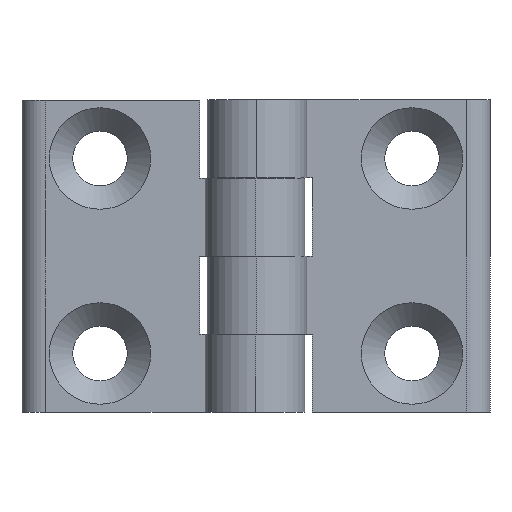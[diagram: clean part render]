
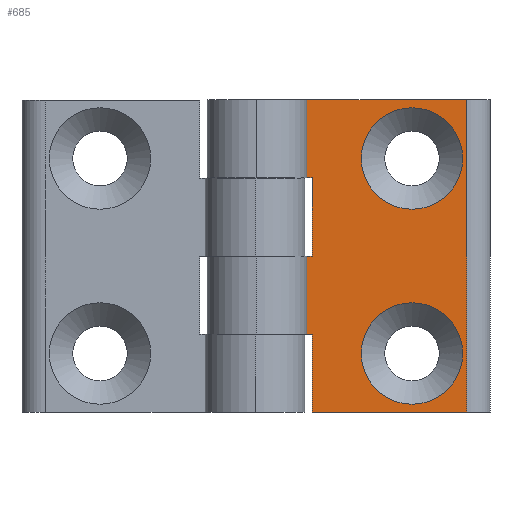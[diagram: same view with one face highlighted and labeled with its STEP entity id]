
A CAD part, front view. The second image highlights one B-rep face of the part: STEP entity #685.
In plain terms, the highlighted planar face has unit normal (0, -1, 0).
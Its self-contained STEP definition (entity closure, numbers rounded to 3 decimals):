
#90=CARTESIAN_POINT('',(12.291,-1.401,40.0));
#91=VERTEX_POINT('',#90);
#99=CARTESIAN_POINT('',(12.291,-1.401,0.0));
#100=VERTEX_POINT('',#99);
#101=CARTESIAN_POINT('',(12.291,-1.401,40.0));
#102=DIRECTION('',(0.0,0.0,-1.0));
#103=VECTOR('',#102,40.0);
#104=LINE('',#101,#103);
#105=EDGE_CURVE('',#91,#100,#104,.T.);
#156=CARTESIAN_POINT('',(-8.209,-1.401,40.0));
#157=VERTEX_POINT('',#156);
#165=CARTESIAN_POINT('',(12.291,-1.401,40.0));
#166=DIRECTION('',(-1.0,0.0,0.0));
#167=VECTOR('',#166,20.5);
#168=LINE('',#165,#167);
#169=EDGE_CURVE('',#91,#157,#168,.T.);
#235=CARTESIAN_POINT('',(11.791,-1.401,7.5));
#236=VERTEX_POINT('',#235);
#237=CARTESIAN_POINT('',(5.291,-1.401,7.5));
#238=DIRECTION('',(0.0,1.0,0.0));
#239=DIRECTION('',(1.0,0.0,0.0));
#240=AXIS2_PLACEMENT_3D('',#237,#238,#239);
#241=CIRCLE('',#240,6.5);
#242=EDGE_CURVE('',#236,#236,#241,.T.);
#325=CARTESIAN_POINT('',(11.791,-1.401,32.5));
#326=VERTEX_POINT('',#325);
#327=CARTESIAN_POINT('',(5.291,-1.401,32.5));
#328=DIRECTION('',(0.0,1.0,0.0));
#329=DIRECTION('',(1.0,0.0,0.0));
#330=AXIS2_PLACEMENT_3D('',#327,#328,#329);
#331=CIRCLE('',#330,6.5);
#332=EDGE_CURVE('',#326,#326,#331,.T.);
#394=CARTESIAN_POINT('',(-7.509,-1.401,30.0));
#395=VERTEX_POINT('',#394);
#396=CARTESIAN_POINT('',(-7.509,-1.401,20.));
#397=VERTEX_POINT('',#396);
#398=CARTESIAN_POINT('',(-7.509,-1.401,30.0));
#399=DIRECTION('',(0.0,0.0,-1.0));
#400=VECTOR('',#399,10.);
#401=LINE('',#398,#400);
#402=EDGE_CURVE('',#395,#397,#401,.T.);
#434=CARTESIAN_POINT('',(-8.209,-1.401,20.));
#435=VERTEX_POINT('',#434);
#436=CARTESIAN_POINT('',(-7.509,-1.401,20.));
#437=DIRECTION('',(-1.0,0.0,0.0));
#438=VECTOR('',#437,0.7);
#439=LINE('',#436,#438);
#440=EDGE_CURVE('',#397,#435,#439,.T.);
#486=CARTESIAN_POINT('',(-8.209,-1.401,30.0));
#487=VERTEX_POINT('',#486);
#488=CARTESIAN_POINT('',(-8.209,-1.401,30.0));
#489=DIRECTION('',(1.0,0.0,0.0));
#490=VECTOR('',#489,0.7);
#491=LINE('',#488,#490);
#492=EDGE_CURVE('',#487,#395,#491,.T.);
#557=CARTESIAN_POINT('',(-7.509,-1.401,10.));
#558=VERTEX_POINT('',#557);
#565=CARTESIAN_POINT('',(-8.209,-1.401,10.));
#566=VERTEX_POINT('',#565);
#567=CARTESIAN_POINT('',(-8.209,-1.401,10.));
#568=DIRECTION('',(1.0,0.0,0.0));
#569=VECTOR('',#568,0.7);
#570=LINE('',#567,#569);
#571=EDGE_CURVE('',#566,#558,#570,.T.);
#599=CARTESIAN_POINT('',(-7.509,-1.401,0.0));
#600=VERTEX_POINT('',#599);
#601=CARTESIAN_POINT('',(-7.509,-1.401,10.));
#602=DIRECTION('',(0.0,0.0,-1.0));
#603=VECTOR('',#602,10.);
#604=LINE('',#601,#603);
#605=EDGE_CURVE('',#558,#600,#604,.T.);
#647=CARTESIAN_POINT('',(15.291,-1.401,0.0));
#648=DIRECTION('',(0.0,-1.0,0.0));
#649=DIRECTION('',(0.0,0.0,-1.0));
#650=AXIS2_PLACEMENT_3D('',#647,#648,#649);
#651=PLANE('',#650);
#652=ORIENTED_EDGE('',*,*,#105,.F.);
#653=ORIENTED_EDGE('',*,*,#169,.T.);
#654=CARTESIAN_POINT('',(-8.209,-1.401,30.0));
#655=DIRECTION('',(0.0,0.0,1.0));
#656=VECTOR('',#655,10.0);
#657=LINE('',#654,#656);
#658=EDGE_CURVE('',#487,#157,#657,.T.);
#659=ORIENTED_EDGE('',*,*,#658,.F.);
#660=ORIENTED_EDGE('',*,*,#492,.T.);
#661=ORIENTED_EDGE('',*,*,#402,.T.);
#662=ORIENTED_EDGE('',*,*,#440,.T.);
#663=CARTESIAN_POINT('',(-8.209,-1.401,10.));
#664=DIRECTION('',(0.0,0.0,1.0));
#665=VECTOR('',#664,10.0);
#666=LINE('',#663,#665);
#667=EDGE_CURVE('',#566,#435,#666,.T.);
#668=ORIENTED_EDGE('',*,*,#667,.F.);
#669=ORIENTED_EDGE('',*,*,#571,.T.);
#670=ORIENTED_EDGE('',*,*,#605,.T.);
#671=CARTESIAN_POINT('',(-7.509,-1.401,0.0));
#672=DIRECTION('',(1.0,0.0,0.0));
#673=VECTOR('',#672,19.8);
#674=LINE('',#671,#673);
#675=EDGE_CURVE('',#600,#100,#674,.T.);
#676=ORIENTED_EDGE('',*,*,#675,.T.);
#677=EDGE_LOOP('',(#652,#653,#659,#660,#661,#662,#668,#669,#670,#676));
#678=FACE_OUTER_BOUND('',#677,.T.);
#679=ORIENTED_EDGE('',*,*,#242,.T.);
#680=EDGE_LOOP('',(#679));
#681=FACE_BOUND('',#680,.T.);
#682=ORIENTED_EDGE('',*,*,#332,.T.);
#683=EDGE_LOOP('',(#682));
#684=FACE_BOUND('',#683,.T.);
#685=ADVANCED_FACE('',(#678,#681,#684),#651,.T.);
